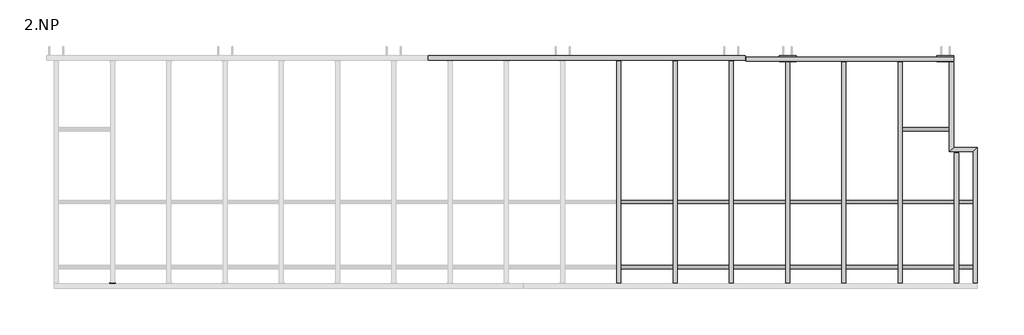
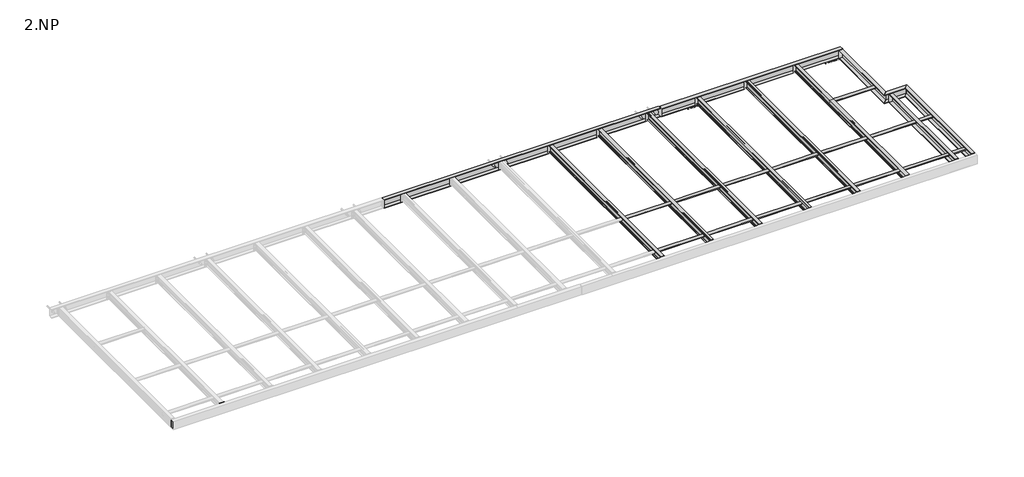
# One storey, part 2 of 18: 29 beams, 5 proxies.
"""IFC4 building model written with IfcOpenShell, lengths in millimetres."""

from ifc_helpers import new_model, si_unit, point, frame, frame_2d, origin, place, context, project, spatial, polyline, circle_curve, trimmed, segment, composite_curve, outline, extrude, faceted_brep, element, save

model = new_model("IFC4")

# Units and contexts
model_context = context("Model", 3, world=origin())
ifc_project = project(units=[si_unit("LENGTHUNIT", "METRE", prefix="MILLI")], contexts=[model_context])

# Site, building, storey
site = spatial("IfcSite", under=ifc_project)
building = spatial("IfcBuilding", under=site)
storey = spatial("IfcBuildingStorey", under=building, Name="2.NP", Elevation=3000.0)

# Beams
placement = place(None, origin())
element("IfcBeam", 1, ObjectType="CHS60.3*5", at=placement, inside=storey, context=model_context, shape_type="SweptSolid", body=[
    extrude(outline(composite_curve([segment(trimmed(circle_curve(frame_2d((1260.0, 3230.0)), 30.15), [point((1290.15, 3230.0))], [point((1229.85, 3230.0))], False, "CARTESIAN"), True, "CONTINUOUS"), segment(trimmed(circle_curve(frame_2d((1260.0, 3230.0)), 30.15), [point((1229.85, 3230.0))], [point((1290.15, 3230.0))], False, "CARTESIAN"), True, "CONTINUOUS")], self_intersect=False), holes=[composite_curve([segment(trimmed(circle_curve(frame_2d((1260.0, 3230.0)), 25.15), [point((1285.15, 3230.0))], [point((1234.85, 3230.0))], True, "CARTESIAN"), True, "CONTINUOUS"), segment(trimmed(circle_curve(frame_2d((1260.0, 3230.0)), 25.15), [point((1234.85, 3230.0))], [point((1285.15, 3230.0))], True, "CARTESIAN"), True, "CONTINUOUS")], self_intersect=False)]), frame((10052.35, 0.0, 0.0), z_axis=(1.0, 0.0, 0.0), x_axis=(0.0, 1.0, 0.0)), (0.0, 0.0, 1.0), 995.3),
])
element("IfcBeam", 2, ObjectType="CHS60.3*5", at=placement, inside=storey, context=model_context, shape_type="SweptSolid", body=[
    extrude(outline(composite_curve([segment(trimmed(circle_curve(frame_2d((1260.0, 3230.0)), 30.15), [point((1290.15, 3230.0))], [point((1229.85, 3230.0))], False, "CARTESIAN"), True, "CONTINUOUS"), segment(trimmed(circle_curve(frame_2d((1260.0, 3230.0)), 30.15), [point((1229.85, 3230.0))], [point((1290.15, 3230.0))], False, "CARTESIAN"), True, "CONTINUOUS")], self_intersect=False), holes=[composite_curve([segment(trimmed(circle_curve(frame_2d((1260.0, 3230.0)), 25.15), [point((1285.15, 3230.0))], [point((1234.85, 3230.0))], True, "CARTESIAN"), True, "CONTINUOUS"), segment(trimmed(circle_curve(frame_2d((1260.0, 3230.0)), 25.15), [point((1234.85, 3230.0))], [point((1285.15, 3230.0))], True, "CARTESIAN"), True, "CONTINUOUS")], self_intersect=False)]), frame((11052.35, 0.0, 0.0), z_axis=(1.0, 0.0, 0.0), x_axis=(0.0, 1.0, 0.0)), (0.0, 0.0, 1.0), 995.3),
])
element("IfcBeam", 3, ObjectType="CHS60.3*5", at=placement, inside=storey, context=model_context, shape_type="SweptSolid", body=[
    extrude(outline(composite_curve([segment(trimmed(circle_curve(frame_2d((1260.0, 3230.0)), 30.15), [point((1290.15, 3230.0))], [point((1229.85, 3230.0))], False, "CARTESIAN"), True, "CONTINUOUS"), segment(trimmed(circle_curve(frame_2d((1260.0, 3230.0)), 30.15), [point((1229.85, 3230.0))], [point((1290.15, 3230.0))], False, "CARTESIAN"), True, "CONTINUOUS")], self_intersect=False), holes=[composite_curve([segment(trimmed(circle_curve(frame_2d((1260.0, 3230.0)), 25.15), [point((1285.15, 3230.0))], [point((1234.85, 3230.0))], True, "CARTESIAN"), True, "CONTINUOUS"), segment(trimmed(circle_curve(frame_2d((1260.0, 3230.0)), 25.15), [point((1234.85, 3230.0))], [point((1285.15, 3230.0))], True, "CARTESIAN"), True, "CONTINUOUS")], self_intersect=False)]), frame((12052.35, 0.0, 0.0), z_axis=(1.0, 0.0, 0.0), x_axis=(0.0, 1.0, 0.0)), (0.0, 0.0, 1.0), 995.3),
])
element("IfcBeam", 4, ObjectType="CHS60.3*5", at=placement, inside=storey, context=model_context, shape_type="SweptSolid", body=[
    extrude(outline(composite_curve([segment(trimmed(circle_curve(frame_2d((1260.0, 3230.0)), 30.15), [point((1290.15, 3230.0))], [point((1229.85, 3230.0))], False, "CARTESIAN"), True, "CONTINUOUS"), segment(trimmed(circle_curve(frame_2d((1260.0, 3230.0)), 30.15), [point((1229.85, 3230.0))], [point((1290.15, 3230.0))], False, "CARTESIAN"), True, "CONTINUOUS")], self_intersect=False), holes=[composite_curve([segment(trimmed(circle_curve(frame_2d((1260.0, 3230.0)), 25.15), [point((1285.15, 3230.0))], [point((1234.85, 3230.0))], True, "CARTESIAN"), True, "CONTINUOUS"), segment(trimmed(circle_curve(frame_2d((1260.0, 3230.0)), 25.15), [point((1234.85, 3230.0))], [point((1285.15, 3230.0))], True, "CARTESIAN"), True, "CONTINUOUS")], self_intersect=False)]), frame((13052.35, 0.0, 0.0), z_axis=(1.0, 0.0, 0.0), x_axis=(0.0, 1.0, 0.0)), (0.0, 0.0, 1.0), 995.3),
])
element("IfcBeam", 5, ObjectType="CHS60.3*5", at=placement, inside=storey, context=model_context, shape_type="SweptSolid", body=[
    extrude(outline(composite_curve([segment(trimmed(circle_curve(frame_2d((1260.0, 3230.0)), 30.15), [point((1290.15, 3230.0))], [point((1229.85, 3230.0))], False, "CARTESIAN"), True, "CONTINUOUS"), segment(trimmed(circle_curve(frame_2d((1260.0, 3230.0)), 30.15), [point((1229.85, 3230.0))], [point((1290.15, 3230.0))], False, "CARTESIAN"), True, "CONTINUOUS")], self_intersect=False), holes=[composite_curve([segment(trimmed(circle_curve(frame_2d((1260.0, 3230.0)), 25.15), [point((1285.15, 3230.0))], [point((1234.85, 3230.0))], True, "CARTESIAN"), True, "CONTINUOUS"), segment(trimmed(circle_curve(frame_2d((1260.0, 3230.0)), 25.15), [point((1234.85, 3230.0))], [point((1285.15, 3230.0))], True, "CARTESIAN"), True, "CONTINUOUS")], self_intersect=False)]), frame((14052.4, 0.0, 0.0), z_axis=(1.0, 0.0, 0.0), x_axis=(0.0, 1.0, 0.0)), (0.0, 0.0, 1.0), 997.6),
])
element("IfcBeam", 6, ObjectType="CHS60.3*5", at=placement, inside=storey, context=model_context, shape_type="SweptSolid", body=[
    extrude(outline(composite_curve([segment(trimmed(circle_curve(frame_2d((1260.0, 3230.0)), 30.15), [point((1290.15, 3230.0))], [point((1229.85, 3230.0))], False, "CARTESIAN"), True, "CONTINUOUS"), segment(trimmed(circle_curve(frame_2d((1260.0, 3230.0)), 30.15), [point((1229.85, 3230.0))], [point((1290.15, 3230.0))], False, "CARTESIAN"), True, "CONTINUOUS")], self_intersect=False), holes=[composite_curve([segment(trimmed(circle_curve(frame_2d((1260.0, 3230.0)), 25.15), [point((1285.15, 3230.0))], [point((1234.85, 3230.0))], True, "CARTESIAN"), True, "CONTINUOUS"), segment(trimmed(circle_curve(frame_2d((1260.0, 3230.0)), 25.15), [point((1234.85, 3230.0))], [point((1285.15, 3230.0))], True, "CARTESIAN"), True, "CONTINUOUS")], self_intersect=False)]), frame((15050.0, 0.0, 0.0), z_axis=(1.0, 0.0, 0.0), x_axis=(0.0, 1.0, 0.0)), (0.0, 0.0, 1.0), 1034.5),
])
element("IfcBeam", 7, ObjectType="CHS60.3*5", at=placement, inside=storey, context=model_context, shape_type="SweptSolid", body=[
    extrude(outline(composite_curve([segment(trimmed(circle_curve(frame_2d((100.0, 3230.0)), 30.15), [point((130.15, 3230.0))], [point((69.85, 3230.0))], False, "CARTESIAN"), True, "CONTINUOUS"), segment(trimmed(circle_curve(frame_2d((100.0, 3230.0)), 30.15), [point((69.85, 3230.0))], [point((130.15, 3230.0))], False, "CARTESIAN"), True, "CONTINUOUS")], self_intersect=False), holes=[composite_curve([segment(trimmed(circle_curve(frame_2d((100.0, 3230.0)), 25.15), [point((125.15, 3230.0))], [point((74.85, 3230.0))], True, "CARTESIAN"), True, "CONTINUOUS"), segment(trimmed(circle_curve(frame_2d((100.0, 3230.0)), 25.15), [point((74.85, 3230.0))], [point((125.15, 3230.0))], True, "CARTESIAN"), True, "CONTINUOUS")], self_intersect=False)]), frame((10052.35, 0.0, 0.0), z_axis=(1.0, 0.0, 0.0), x_axis=(0.0, 1.0, 0.0)), (0.0, 0.0, 1.0), 995.3),
])
element("IfcBeam", 8, ObjectType="CHS60.3*5", at=placement, inside=storey, context=model_context, shape_type="SweptSolid", body=[
    extrude(outline(composite_curve([segment(trimmed(circle_curve(frame_2d((100.0, 3230.0)), 30.15), [point((130.15, 3230.0))], [point((69.85, 3230.0))], False, "CARTESIAN"), True, "CONTINUOUS"), segment(trimmed(circle_curve(frame_2d((100.0, 3230.0)), 30.15), [point((69.85, 3230.0))], [point((130.15, 3230.0))], False, "CARTESIAN"), True, "CONTINUOUS")], self_intersect=False), holes=[composite_curve([segment(trimmed(circle_curve(frame_2d((100.0, 3230.0)), 25.15), [point((125.15, 3230.0))], [point((74.85, 3230.0))], True, "CARTESIAN"), True, "CONTINUOUS"), segment(trimmed(circle_curve(frame_2d((100.0, 3230.0)), 25.15), [point((74.85, 3230.0))], [point((125.15, 3230.0))], True, "CARTESIAN"), True, "CONTINUOUS")], self_intersect=False)]), frame((11052.35, 0.0, 0.0), z_axis=(1.0, 0.0, 0.0), x_axis=(0.0, 1.0, 0.0)), (0.0, 0.0, 1.0), 995.3),
])
element("IfcBeam", 9, ObjectType="CHS60.3*5", at=placement, inside=storey, context=model_context, shape_type="SweptSolid", body=[
    extrude(outline(composite_curve([segment(trimmed(circle_curve(frame_2d((100.0, 3230.0)), 30.15), [point((130.15, 3230.0))], [point((69.85, 3230.0))], False, "CARTESIAN"), True, "CONTINUOUS"), segment(trimmed(circle_curve(frame_2d((100.0, 3230.0)), 30.15), [point((69.85, 3230.0))], [point((130.15, 3230.0))], False, "CARTESIAN"), True, "CONTINUOUS")], self_intersect=False), holes=[composite_curve([segment(trimmed(circle_curve(frame_2d((100.0, 3230.0)), 25.15), [point((125.15, 3230.0))], [point((74.85, 3230.0))], True, "CARTESIAN"), True, "CONTINUOUS"), segment(trimmed(circle_curve(frame_2d((100.0, 3230.0)), 25.15), [point((74.85, 3230.0))], [point((125.15, 3230.0))], True, "CARTESIAN"), True, "CONTINUOUS")], self_intersect=False)]), frame((12052.35, 0.0, 0.0), z_axis=(1.0, 0.0, 0.0), x_axis=(0.0, 1.0, 0.0)), (0.0, 0.0, 1.0), 995.3),
])
element("IfcBeam", 10, ObjectType="CHS60.3*5", at=placement, inside=storey, context=model_context, shape_type="SweptSolid", body=[
    extrude(outline(composite_curve([segment(trimmed(circle_curve(frame_2d((100.0, 3230.0)), 30.15), [point((130.15, 3230.0))], [point((69.85, 3230.0))], False, "CARTESIAN"), True, "CONTINUOUS"), segment(trimmed(circle_curve(frame_2d((100.0, 3230.0)), 30.15), [point((69.85, 3230.0))], [point((130.15, 3230.0))], False, "CARTESIAN"), True, "CONTINUOUS")], self_intersect=False), holes=[composite_curve([segment(trimmed(circle_curve(frame_2d((100.0, 3230.0)), 25.15), [point((125.15, 3230.0))], [point((74.85, 3230.0))], True, "CARTESIAN"), True, "CONTINUOUS"), segment(trimmed(circle_curve(frame_2d((100.0, 3230.0)), 25.15), [point((74.85, 3230.0))], [point((125.15, 3230.0))], True, "CARTESIAN"), True, "CONTINUOUS")], self_intersect=False)]), frame((13052.35, 0.0, 0.0), z_axis=(1.0, 0.0, 0.0), x_axis=(0.0, 1.0, 0.0)), (0.0, 0.0, 1.0), 995.3),
])
element("IfcBeam", 11, ObjectType="CHS60.3*5", at=placement, inside=storey, context=model_context, shape_type="SweptSolid", body=[
    extrude(outline(composite_curve([segment(trimmed(circle_curve(frame_2d((100.0, 3230.0)), 30.15), [point((130.15, 3230.0))], [point((69.85, 3230.0))], False, "CARTESIAN"), True, "CONTINUOUS"), segment(trimmed(circle_curve(frame_2d((100.0, 3230.0)), 30.15), [point((69.85, 3230.0))], [point((130.15, 3230.0))], False, "CARTESIAN"), True, "CONTINUOUS")], self_intersect=False), holes=[composite_curve([segment(trimmed(circle_curve(frame_2d((100.0, 3230.0)), 25.15), [point((125.15, 3230.0))], [point((74.85, 3230.0))], True, "CARTESIAN"), True, "CONTINUOUS"), segment(trimmed(circle_curve(frame_2d((100.0, 3230.0)), 25.15), [point((74.85, 3230.0))], [point((125.15, 3230.0))], True, "CARTESIAN"), True, "CONTINUOUS")], self_intersect=False)]), frame((14052.35, 0.0, 0.0), z_axis=(1.0, 0.0, 0.0), x_axis=(0.0, 1.0, 0.0)), (0.0, 0.0, 1.0), 995.3),
])
element("IfcBeam", 12, ObjectType="CHS60.3*5", at=placement, inside=storey, context=model_context, shape_type="SweptSolid", body=[
    extrude(outline(composite_curve([segment(trimmed(circle_curve(frame_2d((100.0, 3230.0)), 30.15), [point((130.15, 3230.0))], [point((69.85, 3230.0))], False, "CARTESIAN"), True, "CONTINUOUS"), segment(trimmed(circle_curve(frame_2d((100.0, 3230.0)), 30.15), [point((69.85, 3230.0))], [point((130.15, 3230.0))], False, "CARTESIAN"), True, "CONTINUOUS")], self_intersect=False), holes=[composite_curve([segment(trimmed(circle_curve(frame_2d((100.0, 3230.0)), 25.15), [point((125.15, 3230.0))], [point((74.85, 3230.0))], True, "CARTESIAN"), True, "CONTINUOUS"), segment(trimmed(circle_curve(frame_2d((100.0, 3230.0)), 25.15), [point((74.85, 3230.0))], [point((125.15, 3230.0))], True, "CARTESIAN"), True, "CONTINUOUS")], self_intersect=False)]), frame((15052.4, 0.0, 0.0), z_axis=(1.0, 0.0, 0.0), x_axis=(0.0, 1.0, 0.0)), (0.0, 0.0, 1.0), 1032.1),
])
element("IfcBeam", 13, ObjectType="CHS60.3*5", at=placement, inside=storey, context=model_context, shape_type="SweptSolid", body=[
    extrude(outline(composite_curve([segment(trimmed(circle_curve(frame_2d((2550.0, 3230.0)), 30.15), [point((2580.15, 3230.0))], [point((2519.85, 3230.0))], False, "CARTESIAN"), True, "CONTINUOUS"), segment(trimmed(circle_curve(frame_2d((2550.0, 3230.0)), 30.15), [point((2519.85, 3230.0))], [point((2580.15, 3230.0))], False, "CARTESIAN"), True, "CONTINUOUS")], self_intersect=False), holes=[composite_curve([segment(trimmed(circle_curve(frame_2d((2550.0, 3230.0)), 25.15), [point((2575.15, 3230.0))], [point((2524.85, 3230.0))], True, "CARTESIAN"), True, "CONTINUOUS"), segment(trimmed(circle_curve(frame_2d((2550.0, 3230.0)), 25.15), [point((2524.85, 3230.0))], [point((2575.15, 3230.0))], True, "CARTESIAN"), True, "CONTINUOUS")], self_intersect=False)]), frame((15050.0, 0.0, 0.0), z_axis=(1.0, 0.0, 0.0), x_axis=(0.0, 1.0, 0.0)), (0.0, 0.0, 1.0), 945.0),
])
element("IfcBeam", 14, ObjectType="L100*10", at=placement, inside=storey, context=model_context, shape_type="SweptSolid", body=[
    extrude(outline(composite_curve([segment(polyline([(3860.0, 3120.0), (3860.0, 3020.0), (3856.0, 3020.0)]), True, "CONTINUOUS"), segment(trimmed(circle_curve(frame_2d((3856.0, 3026.0)), 6.0), [point((3856.0, 3020.0))], [point((3850.0, 3026.0))], False, "CARTESIAN"), True, "CONTINUOUS"), segment(polyline([(3850.0, 3026.0), (3850.0, 3098.0)]), True, "CONTINUOUS"), segment(trimmed(circle_curve(frame_2d((3838.0, 3098.0)), 12.0), [point((3850.0, 3098.0))], [point((3838.0, 3110.0))], True, "CARTESIAN"), True, "CONTINUOUS"), segment(polyline([(3838.0, 3110.0), (3766.0, 3110.0)]), True, "CONTINUOUS"), segment(trimmed(circle_curve(frame_2d((3766.0, 3116.0)), 6.0), [point((3766.0, 3110.0))], [point((3760.0, 3116.0))], False, "CARTESIAN"), True, "CONTINUOUS"), segment(polyline([(3760.0, 3116.0), (3760.0, 3120.0), (3860.0, 3120.0)]), True, "CONTINUOUS")], self_intersect=False)), frame((15705.0, 0.0, 0.0), z_axis=(1.0, 0.0, 0.0), x_axis=(0.0, 1.0, 0.0)), (0.0, 0.0, 1.0), 300.0),
])
element("IfcBeam", 15, ObjectType="L100*10", at=placement, inside=storey, context=model_context, shape_type="SweptSolid", body=[
    extrude(outline(composite_curve([segment(polyline([(3860.0, 3120.0), (3860.0, 3020.0), (3856.0, 3020.0)]), True, "CONTINUOUS"), segment(trimmed(circle_curve(frame_2d((3856.0, 3026.0)), 6.0), [point((3856.0, 3020.0))], [point((3850.0, 3026.0))], False, "CARTESIAN"), True, "CONTINUOUS"), segment(polyline([(3850.0, 3026.0), (3850.0, 3098.0)]), True, "CONTINUOUS"), segment(trimmed(circle_curve(frame_2d((3838.0, 3098.0)), 12.0), [point((3850.0, 3098.0))], [point((3838.0, 3110.0))], True, "CARTESIAN"), True, "CONTINUOUS"), segment(polyline([(3838.0, 3110.0), (3766.0, 3110.0)]), True, "CONTINUOUS"), segment(trimmed(circle_curve(frame_2d((3766.0, 3116.0)), 6.0), [point((3766.0, 3110.0))], [point((3760.0, 3116.0))], False, "CARTESIAN"), True, "CONTINUOUS"), segment(polyline([(3760.0, 3116.0), (3760.0, 3120.0), (3860.0, 3120.0)]), True, "CONTINUOUS")], self_intersect=False)), frame((12900.0, 0.0, 0.0), z_axis=(1.0, 0.0, 0.0), x_axis=(0.0, 1.0, 0.0)), (0.0, 0.0, 1.0), 300.0),
])
element("IfcBeam", 16, ObjectType="CHS60.3*5", at=placement, inside=storey, context=model_context, shape_type="SweptSolid", body=[
    extrude(outline(composite_curve([segment(trimmed(circle_curve(frame_2d((1260.0, 3230.0)), 30.15), [point((1290.15, 3230.0))], [point((1229.85, 3230.0))], False, "CARTESIAN"), True, "CONTINUOUS"), segment(trimmed(circle_curve(frame_2d((1260.0, 3230.0)), 30.15), [point((1229.85, 3230.0))], [point((1290.15, 3230.0))], False, "CARTESIAN"), True, "CONTINUOUS")], self_intersect=False), holes=[composite_curve([segment(trimmed(circle_curve(frame_2d((1260.0, 3230.0)), 25.15), [point((1285.15, 3230.0))], [point((1234.85, 3230.0))], True, "CARTESIAN"), True, "CONTINUOUS"), segment(trimmed(circle_curve(frame_2d((1260.0, 3230.0)), 25.15), [point((1234.85, 3230.0))], [point((1285.15, 3230.0))], True, "CARTESIAN"), True, "CONTINUOUS")], self_intersect=False)]), frame((16090.0, 0.0, 0.0), z_axis=(1.0, 0.0, 0.0), x_axis=(0.0, 1.0, 0.0)), (0.0, 0.0, 1.0), 329.5),
])
element("IfcBeam", 17, ObjectType="CHS60.3*5", at=placement, inside=storey, context=model_context, shape_type="SweptSolid", body=[
    extrude(outline(composite_curve([segment(trimmed(circle_curve(frame_2d((100.0, 3230.0)), 30.15), [point((130.15, 3230.0))], [point((69.85, 3230.0))], False, "CARTESIAN"), True, "CONTINUOUS"), segment(trimmed(circle_curve(frame_2d((100.0, 3230.0)), 30.15), [point((69.85, 3230.0))], [point((130.15, 3230.0))], False, "CARTESIAN"), True, "CONTINUOUS")], self_intersect=False), holes=[composite_curve([segment(trimmed(circle_curve(frame_2d((100.0, 3230.0)), 25.15), [point((125.15, 3230.0))], [point((74.85, 3230.0))], True, "CARTESIAN"), True, "CONTINUOUS"), segment(trimmed(circle_curve(frame_2d((100.0, 3230.0)), 25.15), [point((74.85, 3230.0))], [point((125.15, 3230.0))], True, "CARTESIAN"), True, "CONTINUOUS")], self_intersect=False)]), frame((16090.0, 0.0, 0.0), z_axis=(1.0, 0.0, 0.0), x_axis=(0.0, 1.0, 0.0)), (0.0, 0.0, 1.0), 329.5),
])
element("IfcBeam", 18, ObjectType="IPE140", at=placement, inside=storey, context=model_context, shape_type="SweptSolid", body=[
    extrude(outline(composite_curve([segment(polyline([(3160.0, 10013.5), (3160.0, 10086.5), (3166.9000001, 10086.5), (3166.9000001, 10059.3499999)]), True, "CONTINUOUS"), segment(trimmed(circle_curve(frame_2d((3173.9000001, 10059.3499999)), 7.0), [point((3166.9000001, 10059.3499999))], [point((3173.9000001, 10052.3499999))], True, "CARTESIAN"), True, "CONTINUOUS"), segment(polyline([(3173.9000001, 10052.3499999), (3286.0999999, 10052.3499999)]), True, "CONTINUOUS"), segment(trimmed(circle_curve(frame_2d((3286.0999999, 10059.3499999)), 7.0), [point((3286.0999999, 10052.3499999))], [point((3293.0999999, 10059.3499999))], True, "CARTESIAN"), True, "CONTINUOUS"), segment(polyline([(3293.0999999, 10059.3499999), (3293.0999999, 10086.5), (3300.0, 10086.5), (3300.0, 10013.5), (3293.0999999, 10013.5), (3293.0999999, 10040.6500001)]), True, "CONTINUOUS"), segment(trimmed(circle_curve(frame_2d((3286.0999999, 10040.6500001)), 7.0), [point((3293.0999999, 10040.6500001))], [point((3286.0999999, 10047.6500001))], True, "CARTESIAN"), True, "CONTINUOUS"), segment(polyline([(3286.0999999, 10047.6500001), (3173.9000001, 10047.6500001)]), True, "CONTINUOUS"), segment(trimmed(circle_curve(frame_2d((3173.9000001, 10040.6500001)), 7.0), [point((3173.9000001, 10047.6500001))], [point((3166.9000001, 10040.6500001))], True, "CARTESIAN"), True, "CONTINUOUS"), segment(polyline([(3166.9000001, 10040.6500001), (3166.9000001, 10013.5), (3160.0, 10013.5)]), True, "CONTINUOUS")], self_intersect=False)), frame((0.0, -180.0, 0.0), z_axis=(0.0, 1.0, 0.0), x_axis=(0.0, 0.0, 1.0)), (0.0, 0.0, 1.0), 3947.0),
])
element("IfcBeam", 19, ObjectType="IPE140", at=placement, inside=storey, context=model_context, shape_type="SweptSolid", body=[
    extrude(outline(composite_curve([segment(polyline([(3160.0, 11013.5), (3160.0, 11086.5), (3166.9000001, 11086.5), (3166.9000001, 11059.3499999)]), True, "CONTINUOUS"), segment(trimmed(circle_curve(frame_2d((3173.9000001, 11059.3499999)), 7.0), [point((3166.9000001, 11059.3499999))], [point((3173.9000001, 11052.3499999))], True, "CARTESIAN"), True, "CONTINUOUS"), segment(polyline([(3173.9000001, 11052.3499999), (3286.0999999, 11052.3499999)]), True, "CONTINUOUS"), segment(trimmed(circle_curve(frame_2d((3286.0999999, 11059.3499999)), 7.0), [point((3286.0999999, 11052.3499999))], [point((3293.0999999, 11059.3499999))], True, "CARTESIAN"), True, "CONTINUOUS"), segment(polyline([(3293.0999999, 11059.3499999), (3293.0999999, 11086.5), (3300.0, 11086.5), (3300.0, 11013.5), (3293.0999999, 11013.5), (3293.0999999, 11040.6500001)]), True, "CONTINUOUS"), segment(trimmed(circle_curve(frame_2d((3286.0999999, 11040.6500001)), 7.0), [point((3293.0999999, 11040.6500001))], [point((3286.0999999, 11047.6500001))], True, "CARTESIAN"), True, "CONTINUOUS"), segment(polyline([(3286.0999999, 11047.6500001), (3173.9000001, 11047.6500001)]), True, "CONTINUOUS"), segment(trimmed(circle_curve(frame_2d((3173.9000001, 11040.6500001)), 7.0), [point((3173.9000001, 11047.6500001))], [point((3166.9000001, 11040.6500001))], True, "CARTESIAN"), True, "CONTINUOUS"), segment(polyline([(3166.9000001, 11040.6500001), (3166.9000001, 11013.5), (3160.0, 11013.5)]), True, "CONTINUOUS")], self_intersect=False)), frame((0.0, -180.0, 0.0), z_axis=(0.0, 1.0, 0.0), x_axis=(0.0, 0.0, 1.0)), (0.0, 0.0, 1.0), 3947.0),
])
element("IfcBeam", 20, ObjectType="IPE140", at=placement, inside=storey, context=model_context, shape_type="SweptSolid", body=[
    extrude(outline(composite_curve([segment(polyline([(3160.0, 12013.5), (3160.0, 12086.5), (3166.9000001, 12086.5), (3166.9000001, 12059.3499999)]), True, "CONTINUOUS"), segment(trimmed(circle_curve(frame_2d((3173.9000001, 12059.3499999)), 7.0), [point((3166.9000001, 12059.3499999))], [point((3173.9000001, 12052.3499999))], True, "CARTESIAN"), True, "CONTINUOUS"), segment(polyline([(3173.9000001, 12052.3499999), (3286.0999999, 12052.3499999)]), True, "CONTINUOUS"), segment(trimmed(circle_curve(frame_2d((3286.0999999, 12059.3499999)), 7.0), [point((3286.0999999, 12052.3499999))], [point((3293.0999999, 12059.3499999))], True, "CARTESIAN"), True, "CONTINUOUS"), segment(polyline([(3293.0999999, 12059.3499999), (3293.0999999, 12086.5), (3300.0, 12086.5), (3300.0, 12013.5), (3293.0999999, 12013.5), (3293.0999999, 12040.6500001)]), True, "CONTINUOUS"), segment(trimmed(circle_curve(frame_2d((3286.0999999, 12040.6500001)), 7.0), [point((3293.0999999, 12040.6500001))], [point((3286.0999999, 12047.6500001))], True, "CARTESIAN"), True, "CONTINUOUS"), segment(polyline([(3286.0999999, 12047.6500001), (3173.9000001, 12047.6500001)]), True, "CONTINUOUS"), segment(trimmed(circle_curve(frame_2d((3173.9000001, 12040.6500001)), 7.0), [point((3173.9000001, 12047.6500001))], [point((3166.9000001, 12040.6500001))], True, "CARTESIAN"), True, "CONTINUOUS"), segment(polyline([(3166.9000001, 12040.6500001), (3166.9000001, 12013.5), (3160.0, 12013.5)]), True, "CONTINUOUS")], self_intersect=False)), frame((0.0, -180.0, 0.0), z_axis=(0.0, 1.0, 0.0), x_axis=(0.0, 0.0, 1.0)), (0.0, 0.0, 1.0), 3947.0),
])
element("IfcBeam", 21, ObjectType="IPE140", at=placement, inside=storey, context=model_context, shape_type="SweptSolid", body=[
    extrude(outline(composite_curve([segment(polyline([(3160.0, 13013.5), (3160.0, 13086.5), (3166.9000001, 13086.5), (3166.9000001, 13059.3499999)]), True, "CONTINUOUS"), segment(trimmed(circle_curve(frame_2d((3173.9000001, 13059.3499999)), 7.0), [point((3166.9000001, 13059.3499999))], [point((3173.9000001, 13052.3499999))], True, "CARTESIAN"), True, "CONTINUOUS"), segment(polyline([(3173.9000001, 13052.3499999), (3286.0999999, 13052.3499999)]), True, "CONTINUOUS"), segment(trimmed(circle_curve(frame_2d((3286.0999999, 13059.3499999)), 7.0), [point((3286.0999999, 13052.3499999))], [point((3293.0999999, 13059.3499999))], True, "CARTESIAN"), True, "CONTINUOUS"), segment(polyline([(3293.0999999, 13059.3499999), (3293.0999999, 13086.5), (3300.0, 13086.5), (3300.0, 13013.5), (3293.0999999, 13013.5), (3293.0999999, 13040.6500001)]), True, "CONTINUOUS"), segment(trimmed(circle_curve(frame_2d((3286.0999999, 13040.6500001)), 7.0), [point((3293.0999999, 13040.6500001))], [point((3286.0999999, 13047.6500001))], True, "CARTESIAN"), True, "CONTINUOUS"), segment(polyline([(3286.0999999, 13047.6500001), (3173.9000001, 13047.6500001)]), True, "CONTINUOUS"), segment(trimmed(circle_curve(frame_2d((3173.9000001, 13040.6500001)), 7.0), [point((3173.9000001, 13047.6500001))], [point((3166.9000001, 13040.6500001))], True, "CARTESIAN"), True, "CONTINUOUS"), segment(polyline([(3166.9000001, 13040.6500001), (3166.9000001, 13013.5), (3160.0, 13013.5)]), True, "CONTINUOUS")], self_intersect=False)), frame((0.0, -180.0, 0.0), z_axis=(0.0, 1.0, 0.0), x_axis=(0.0, 0.0, 1.0)), (0.0, 0.0, 1.0), 3927.0),
])
element("IfcBeam", 22, ObjectType="IPE140", at=placement, inside=storey, context=model_context, shape_type="SweptSolid", body=[
    extrude(outline(composite_curve([segment(polyline([(3160.0, 14013.5), (3160.0, 14086.5), (3166.9000001, 14086.5), (3166.9000001, 14059.3499999)]), True, "CONTINUOUS"), segment(trimmed(circle_curve(frame_2d((3173.9000001, 14059.3499999)), 7.0), [point((3166.9000001, 14059.3499999))], [point((3173.9000001, 14052.3499999))], True, "CARTESIAN"), True, "CONTINUOUS"), segment(polyline([(3173.9000001, 14052.3499999), (3286.0999999, 14052.3499999)]), True, "CONTINUOUS"), segment(trimmed(circle_curve(frame_2d((3286.0999999, 14059.3499999)), 7.0), [point((3286.0999999, 14052.3499999))], [point((3293.0999999, 14059.3499999))], True, "CARTESIAN"), True, "CONTINUOUS"), segment(polyline([(3293.0999999, 14059.3499999), (3293.0999999, 14086.5), (3300.0, 14086.5), (3300.0, 14013.5), (3293.0999999, 14013.5), (3293.0999999, 14040.6500001)]), True, "CONTINUOUS"), segment(trimmed(circle_curve(frame_2d((3286.0999999, 14040.6500001)), 7.0), [point((3293.0999999, 14040.6500001))], [point((3286.0999999, 14047.6500001))], True, "CARTESIAN"), True, "CONTINUOUS"), segment(polyline([(3286.0999999, 14047.6500001), (3173.9000001, 14047.6500001)]), True, "CONTINUOUS"), segment(trimmed(circle_curve(frame_2d((3173.9000001, 14040.6500001)), 7.0), [point((3173.9000001, 14047.6500001))], [point((3166.9000001, 14040.6500001))], True, "CARTESIAN"), True, "CONTINUOUS"), segment(polyline([(3166.9000001, 14040.6500001), (3166.9000001, 14013.5), (3160.0, 14013.5)]), True, "CONTINUOUS")], self_intersect=False)), frame((0.0, -180.0, 0.0), z_axis=(0.0, 1.0, 0.0), x_axis=(0.0, 0.0, 1.0)), (0.0, 0.0, 1.0), 3927.0),
])
element("IfcBeam", 23, ObjectType="IPE140", at=placement, inside=storey, context=model_context, shape_type="SweptSolid", body=[
    extrude(outline(composite_curve([segment(polyline([(3160.0, 15013.5), (3160.0, 15086.5), (3166.9000001, 15086.5), (3166.9000001, 15059.3499999)]), True, "CONTINUOUS"), segment(trimmed(circle_curve(frame_2d((3173.9000001, 15059.3499999)), 7.0), [point((3166.9000001, 15059.3499999))], [point((3173.9000001, 15052.3499999))], True, "CARTESIAN"), True, "CONTINUOUS"), segment(polyline([(3173.9000001, 15052.3499999), (3286.0999999, 15052.3499999)]), True, "CONTINUOUS"), segment(trimmed(circle_curve(frame_2d((3286.0999999, 15059.3499999)), 7.0), [point((3286.0999999, 15052.3499999))], [point((3293.0999999, 15059.3499999))], True, "CARTESIAN"), True, "CONTINUOUS"), segment(polyline([(3293.0999999, 15059.3499999), (3293.0999999, 15086.5), (3300.0, 15086.5), (3300.0, 15013.5), (3293.0999999, 15013.5), (3293.0999999, 15040.6500001)]), True, "CONTINUOUS"), segment(trimmed(circle_curve(frame_2d((3286.0999999, 15040.6500001)), 7.0), [point((3293.0999999, 15040.6500001))], [point((3286.0999999, 15047.6500001))], True, "CARTESIAN"), True, "CONTINUOUS"), segment(polyline([(3286.0999999, 15047.6500001), (3173.9000001, 15047.6500001)]), True, "CONTINUOUS"), segment(trimmed(circle_curve(frame_2d((3173.9000001, 15040.6500001)), 7.0), [point((3173.9000001, 15047.6500001))], [point((3166.9000001, 15040.6500001))], True, "CARTESIAN"), True, "CONTINUOUS"), segment(polyline([(3166.9000001, 15040.6500001), (3166.9000001, 15013.5), (3160.0, 15013.5)]), True, "CONTINUOUS")], self_intersect=False)), frame((0.0, -180.0, 0.0), z_axis=(0.0, 1.0, 0.0), x_axis=(0.0, 0.0, 1.0)), (0.0, 0.0, 1.0), 3927.0),
])
element("IfcBeam", 24, ObjectType="UPE180", at=placement, inside=storey, context=model_context, shape_type="Brep", body=[
    faceted_brep([(16000.0, 3745.0, 3120.0), (15925.0, 3745.0, 3120.0), (15925.0, 3745.0, 3130.5), (15994.5, 3745.0, 3130.5), (15994.5, 3745.0, 3289.5), (15925.0, 3745.0, 3289.5), (15925.0, 3745.0, 3300.0), (16000.0, 3745.0, 3300.0), (16000.0, 2230.0, 3120.0), (15925.0, 2155.0, 3120.0), (15925.0, 2155.0, 3130.5), (15994.5, 2224.5, 3130.5), (15994.5, 2224.5, 3289.5), (15925.0, 2155.0, 3289.5), (15925.0, 2155.0, 3300.0), (16000.0, 2230.0, 3300.0)], [[[0, 1, 2, 3, 4, 5, 6, 7]], [[1, 0, 8, 9]], [[2, 1, 9, 10]], [[3, 2, 10, 11]], [[4, 3, 11, 12]], [[5, 4, 12, 13]], [[6, 5, 13, 14]], [[7, 6, 14, 15]], [[0, 7, 15, 8]], [[9, 8, 15, 14, 13, 12, 11, 10]]]),
])
element("IfcBeam", 25, ObjectType="UPE180", at=placement, inside=storey, context=model_context, shape_type="SweptSolid", body=[
    extrude(outline(polyline([(3860.0, 3300.0), (3860.0, 3120.0), (3785.0, 3120.0), (3785.0, 3130.5), (3854.5, 3130.5), (3854.5, 3289.5), (3785.0, 3289.5), (3785.0, 3300.0), (3860.0, 3300.0)])), frame((6660.0, 0.0, 0.0), z_axis=(1.0, 0.0, 0.0), x_axis=(0.0, 1.0, 0.0)), (0.0, 0.0, 1.0), 5635.0),
])
element("IfcBeam", 26, ObjectType="UPE180", at=placement, inside=storey, context=model_context, shape_type="SweptSolid", body=[
    extrude(outline(polyline([(3840.0, 3300.0), (3840.0, 3120.0), (3765.0, 3120.0), (3765.0, 3130.5), (3834.5, 3130.5), (3834.5, 3289.5), (3765.0, 3289.5), (3765.0, 3300.0), (3840.0, 3300.0)])), frame((12315.0, 0.0, 0.0), z_axis=(1.0, 0.0, 0.0), x_axis=(0.0, 1.0, 0.0)), (0.0, 0.0, 1.0), 3690.0),
])
element("IfcBeam", 27, ObjectType="UPE180", at=placement, inside=storey, context=model_context, shape_type="SweptSolid", body=[
    extrude(outline(polyline([(3300.0, 16090.0), (3300.0, 16015.0), (3289.5, 16015.0), (3289.5, 16084.5), (3130.5, 16084.5), (3130.5, 16015.0), (3120.0, 16015.0), (3120.0, 16090.0), (3300.0, 16090.0)])), frame((0.0, -180.0, 0.0), z_axis=(0.0, 1.0, 0.0), x_axis=(0.0, 0.0, 1.0)), (0.0, 0.0, 1.0), 2315.0),
])
element("IfcBeam", 28, ObjectType="UPE180", at=placement, inside=storey, context=model_context, shape_type="Brep", body=[
    faceted_brep([(16425.0, 2230.0, 3120.0), (16350.0, 2155.0, 3120.0), (15925.0, 2155.0, 3120.0), (16000.0, 2230.0, 3120.0), (16350.0, 2155.0, 3130.5), (15925.0, 2155.0, 3130.5), (16419.5, 2224.5, 3130.5), (15994.5, 2224.5, 3130.5), (16419.5, 2224.5, 3289.5), (15994.5, 2224.5, 3289.5), (16350.0, 2155.0, 3289.5), (15925.0, 2155.0, 3289.5), (16350.0, 2155.0, 3300.0), (15925.0, 2155.0, 3300.0), (16425.0, 2230.0, 3300.0), (16000.0, 2230.0, 3300.0)], [[[0, 1, 2, 3]], [[2, 1, 4, 5]], [[5, 4, 6, 7]], [[6, 8, 9, 7]], [[8, 10, 11, 9]], [[11, 10, 12, 13]], [[13, 12, 14, 15]], [[14, 0, 3, 15]], [[1, 0, 14, 12, 10, 8, 6, 4]], [[3, 2, 5, 7, 9, 11, 13, 15]]]),
])
element("IfcBeam", 29, ObjectType="UPE180", at=placement, inside=storey, context=model_context, shape_type="Brep", body=[
    faceted_brep([(16425.0, -180.0, 3300.0), (16350.0, -180.0, 3300.0), (16350.0, -180.0, 3289.5), (16419.5, -180.0, 3289.5), (16419.5, -180.0, 3130.5), (16350.0, -180.0, 3130.5), (16350.0, -180.0, 3120.0), (16425.0, -180.0, 3120.0), (16425.0, 2230.0, 3300.0), (16350.0, 2155.0, 3300.0), (16350.0, 2155.0, 3289.5), (16419.5, 2224.5, 3289.5), (16419.5, 2224.5, 3130.5), (16350.0, 2155.0, 3130.5), (16350.0, 2155.0, 3120.0), (16425.0, 2230.0, 3120.0)], [[[0, 1, 2, 3, 4, 5, 6, 7]], [[1, 0, 8, 9]], [[2, 1, 9, 10]], [[3, 2, 10, 11]], [[4, 3, 11, 12]], [[5, 4, 12, 13]], [[6, 5, 13, 14]], [[7, 6, 14, 15]], [[0, 7, 15, 8]], [[9, 8, 15, 14, 13, 12, 11, 10]]]),
])

# Proxies
element("IfcBuildingElementProxy", 30, Name="PLECH", ObjectType="PLECH", at=placement, inside=storey, context=model_context, shape_type="SweptSolid", body=[
    extrude(outline(polyline([(1000.0, -180.0), (1100.0, -180.0), (1100.0, -190.0), (1000.0, -190.0), (1000.0, -180.0)])), frame((0.0, 0.0, 3166.5), z_axis=(0.0, 0.0, 1.0), x_axis=(1.0, 0.0, 0.0)), (0.0, 0.0, 1.0), 127.0),
])
element("IfcBuildingElementProxy", 31, Name="PLECH", ObjectType="PLECH", at=placement, inside=storey, context=model_context, shape_type="SweptSolid", body=[
    extrude(outline(polyline([(1000.0, -190.0), (1100.0, -190.0), (1100.0, -200.0), (1000.0, -200.0), (1000.0, -190.0)])), frame((0.0, 0.0, 3127.5), z_axis=(0.0, 0.0, 1.0), x_axis=(1.0, 0.0, 0.0)), (0.0, 0.0, 1.0), 166.0000153),
])
element("IfcBuildingElementProxy", 32, Name="PLECH", ObjectType="PLECH", at=placement, inside=storey, context=model_context, shape_type="SweptSolid", body=[
    extrude(outline(polyline([(85.0, -200.0), (10.0, -200.0), (10.0, -190.0), (85.0, -190.0), (85.0, -200.0)])), frame((0.0, 0.0, 3130.0), z_axis=(0.0, 0.0, 1.0), x_axis=(1.0, 0.0, 0.0)), (0.0, 0.0, 1.0), 160.0),
])
element("IfcBuildingElementProxy", 33, Name="PLECH", ObjectType="PLECH", at=placement, inside=storey, context=model_context, shape_type="SweptSolid", body=[
    extrude(outline(composite_curve([segment(polyline([(-200.0, 3289.5), (-200.0, 3130.5), (-249.5, 3130.5)]), True, "CONTINUOUS"), segment(trimmed(circle_curve(frame_2d((-269.5, 3130.5)), 20.0), [point((-249.5, 3130.5))], [point((-269.5, 3150.5))], True, "CARTESIAN"), True, "CONTINUOUS"), segment(polyline([(-269.5, 3150.5), (-269.5, 3269.5)]), True, "CONTINUOUS"), segment(trimmed(circle_curve(frame_2d((-269.5, 3289.5)), 20.0), [point((-269.5, 3269.5))], [point((-249.5, 3289.5))], True, "CARTESIAN"), True, "CONTINUOUS"), segment(polyline([(-249.5, 3289.5), (-200.0, 3289.5)]), True, "CONTINUOUS")], self_intersect=False)), frame((15.5, 0.0, 0.0), z_axis=(1.0, 0.0, 0.0), x_axis=(0.0, 1.0, 0.0)), (0.0, 0.0, 1.0), 8.0),
])
element("IfcBuildingElementProxy", 34, Name="Bolt assembly", ObjectType="Bolt assembly", at=placement, inside=storey, context=model_context, shape_type="SweptSolid", body=[
    extrude(outline(composite_curve([segment(trimmed(circle_curve(frame_2d((3170.0, 50.0)), 9.0), [point((3170.0, 41.0))], [point((3170.0, 59.0))], False, "CARTESIAN"), True, "CONTINUOUS"), segment(trimmed(circle_curve(frame_2d((3170.0, 50.0)), 9.0), [point((3170.0, 59.0))], [point((3170.0, 41.0))], False, "CARTESIAN"), True, "CONTINUOUS")], self_intersect=False)), frame((0.0, -199.9, 0.0), z_axis=(0.0, 1.0, 0.0), x_axis=(0.0, 0.0, 1.0)), (0.0, 0.0, 1.0), 10.0),
    extrude(outline(polyline([(3170.0, 36.1435935), (3158.0, 43.0717968), (3158.0, 56.9282032), (3170.0, 63.8564065), (3182.0, 56.9282032), (3182.0, 43.0717968), (3170.0, 36.1435935)])), frame((0.0, -213.0, 0.0), z_axis=(0.0, 1.0, 0.0), x_axis=(0.0, 0.0, 1.0)), (0.0, 0.0, 1.0), 10.0),
    extrude(outline(composite_curve([segment(trimmed(circle_curve(frame_2d((3170.0, 50.0)), 8.0), [point((3170.0, 42.0))], [point((3170.0, 58.0))], False, "CARTESIAN"), True, "CONTINUOUS"), segment(trimmed(circle_curve(frame_2d((3170.0, 50.0)), 8.0), [point((3170.0, 58.0))], [point((3170.0, 42.0))], False, "CARTESIAN"), True, "CONTINUOUS")], self_intersect=False)), frame((0.0, -203.0, 0.0), z_axis=(0.0, 1.0, 0.0), x_axis=(0.0, 0.0, 1.0)), (0.0, 0.0, 1.0), 50.0),
    extrude(outline(composite_curve([segment(trimmed(circle_curve(frame_2d((3170.0, 50.0)), 15.0), [point((3170.0, 35.0))], [point((3170.0, 65.0))], False, "CARTESIAN"), True, "CONTINUOUS"), segment(trimmed(circle_curve(frame_2d((3170.0, 50.0)), 15.0), [point((3170.0, 65.0))], [point((3170.0, 35.0))], False, "CARTESIAN"), True, "CONTINUOUS")], self_intersect=False)), frame((0.0, -203.0, 0.0), z_axis=(0.0, 1.0, 0.0), x_axis=(0.0, 0.0, 1.0)), (0.0, 0.0, 1.0), 3.0),
    extrude(outline(composite_curve([segment(trimmed(circle_curve(frame_2d((3170.0, 50.0)), 15.0), [point((3170.0, 35.0))], [point((3170.0, 65.0))], False, "CARTESIAN"), True, "CONTINUOUS"), segment(trimmed(circle_curve(frame_2d((3170.0, 50.0)), 15.0), [point((3170.0, 65.0))], [point((3170.0, 35.0))], False, "CARTESIAN"), True, "CONTINUOUS")], self_intersect=False)), frame((0.0, -180.0, 0.0), z_axis=(0.0, 1.0, 0.0), x_axis=(0.0, 0.0, 1.0)), (0.0, 0.0, 1.0), 3.0),
    extrude(outline(polyline([(3170.0, 34.5558803), (3156.625, 42.2779401), (3156.625, 57.7220599), (3170.0, 65.4441197), (3183.375, 57.7220599), (3183.375, 42.2779401), (3170.0, 34.5558803)])), frame((0.0, -177.0, 0.0), z_axis=(0.0, 1.0, 0.0), x_axis=(0.0, 0.0, 1.0)), (0.0, 0.0, 1.0), 13.0),
    extrude(outline(composite_curve([segment(trimmed(circle_curve(frame_2d((3170.0, 50.0)), 9.0), [point((3170.0, 41.0))], [point((3170.0, 59.0))], False, "CARTESIAN"), True, "CONTINUOUS"), segment(trimmed(circle_curve(frame_2d((3170.0, 50.0)), 9.0), [point((3170.0, 59.0))], [point((3170.0, 41.0))], False, "CARTESIAN"), True, "CONTINUOUS")], self_intersect=False)), frame((0.0, -190.1, 0.0), z_axis=(0.0, 1.0, 0.0), x_axis=(0.0, 0.0, 1.0)), (0.0, 0.0, 1.0), 10.1),
    extrude(outline(composite_curve([segment(trimmed(circle_curve(frame_2d((3250.0, 50.0)), 9.0), [point((3250.0, 41.0))], [point((3250.0, 59.0))], False, "CARTESIAN"), True, "CONTINUOUS"), segment(trimmed(circle_curve(frame_2d((3250.0, 50.0)), 9.0), [point((3250.0, 59.0))], [point((3250.0, 41.0))], False, "CARTESIAN"), True, "CONTINUOUS")], self_intersect=False)), frame((0.0, -199.9, 0.0), z_axis=(0.0, 1.0, 0.0), x_axis=(0.0, 0.0, 1.0)), (0.0, 0.0, 1.0), 10.0),
    extrude(outline(polyline([(3250.0, 36.1435935), (3238.0, 43.0717968), (3238.0, 56.9282032), (3250.0, 63.8564065), (3262.0, 56.9282032), (3262.0, 43.0717968), (3250.0, 36.1435935)])), frame((0.0, -213.0, 0.0), z_axis=(0.0, 1.0, 0.0), x_axis=(0.0, 0.0, 1.0)), (0.0, 0.0, 1.0), 10.0),
    extrude(outline(composite_curve([segment(trimmed(circle_curve(frame_2d((3250.0, 50.0)), 8.0), [point((3250.0, 42.0))], [point((3250.0, 58.0))], False, "CARTESIAN"), True, "CONTINUOUS"), segment(trimmed(circle_curve(frame_2d((3250.0, 50.0)), 8.0), [point((3250.0, 58.0))], [point((3250.0, 42.0))], False, "CARTESIAN"), True, "CONTINUOUS")], self_intersect=False)), frame((0.0, -203.0, 0.0), z_axis=(0.0, 1.0, 0.0), x_axis=(0.0, 0.0, 1.0)), (0.0, 0.0, 1.0), 50.0),
    extrude(outline(composite_curve([segment(trimmed(circle_curve(frame_2d((3250.0, 50.0)), 15.0), [point((3250.0, 35.0))], [point((3250.0, 65.0))], False, "CARTESIAN"), True, "CONTINUOUS"), segment(trimmed(circle_curve(frame_2d((3250.0, 50.0)), 15.0), [point((3250.0, 65.0))], [point((3250.0, 35.0))], False, "CARTESIAN"), True, "CONTINUOUS")], self_intersect=False)), frame((0.0, -203.0, 0.0), z_axis=(0.0, 1.0, 0.0), x_axis=(0.0, 0.0, 1.0)), (0.0, 0.0, 1.0), 3.0),
    extrude(outline(composite_curve([segment(trimmed(circle_curve(frame_2d((3250.0, 50.0)), 15.0), [point((3250.0, 35.0))], [point((3250.0, 65.0))], False, "CARTESIAN"), True, "CONTINUOUS"), segment(trimmed(circle_curve(frame_2d((3250.0, 50.0)), 15.0), [point((3250.0, 65.0))], [point((3250.0, 35.0))], False, "CARTESIAN"), True, "CONTINUOUS")], self_intersect=False)), frame((0.0, -180.0, 0.0), z_axis=(0.0, 1.0, 0.0), x_axis=(0.0, 0.0, 1.0)), (0.0, 0.0, 1.0), 3.0),
    extrude(outline(polyline([(3250.0, 34.5558803), (3236.625, 42.2779401), (3236.625, 57.7220599), (3250.0, 65.4441197), (3263.375, 57.7220599), (3263.375, 42.2779401), (3250.0, 34.5558803)])), frame((0.0, -177.0, 0.0), z_axis=(0.0, 1.0, 0.0), x_axis=(0.0, 0.0, 1.0)), (0.0, 0.0, 1.0), 13.0),
    extrude(outline(composite_curve([segment(trimmed(circle_curve(frame_2d((3250.0, 50.0)), 9.0), [point((3250.0, 41.0))], [point((3250.0, 59.0))], False, "CARTESIAN"), True, "CONTINUOUS"), segment(trimmed(circle_curve(frame_2d((3250.0, 50.0)), 9.0), [point((3250.0, 59.0))], [point((3250.0, 41.0))], False, "CARTESIAN"), True, "CONTINUOUS")], self_intersect=False)), frame((0.0, -190.1, 0.0), z_axis=(0.0, 1.0, 0.0), x_axis=(0.0, 0.0, 1.0)), (0.0, 0.0, 1.0), 10.1),
])

save(model, "model.ifc")
